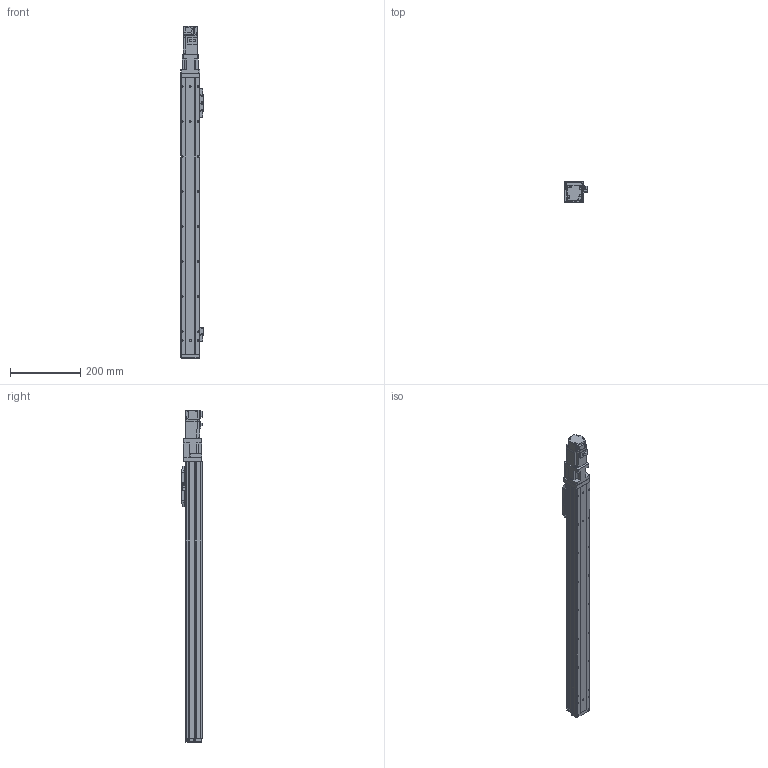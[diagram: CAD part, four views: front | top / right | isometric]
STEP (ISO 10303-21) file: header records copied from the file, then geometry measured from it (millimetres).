
FILE_DESCRIPTION (( 'STEP AP214' ), '1' );
FILE_NAME ('N_GRH5-650-BC-M10.step', '2025-03-14T09:34:16', ( '' ), ( '' ), 'SwSTEP 2.0', 'SolidWorks 2016', '' );
FILE_SCHEMA (( 'AUTOMOTIVE_DESIGN' ));
Length unit declared in the file: millimetre
Products named in the file (5): N_GRH5-BC-008^N_GRH5-650-BC-M10; N_GRH5-GY-004^N_GRH5-650-BC-M10; N_GRH5-650-BC-M10; N_GRH5-GY-011^N_GRH5-650-BC-M10; HF-KP13_100W_Motor^N_GRH5-650-BC-M10
Assembly tree (4 placements, depth 2):
  N_GRH5-650-BC-M10
    N_GRH5-GY-011^N_GRH5-650-BC-M10
    N_GRH5-GY-004^N_GRH5-650-BC-M10
    N_GRH5-BC-008^N_GRH5-650-BC-M10
    HF-KP13_100W_Motor^N_GRH5-650-BC-M10
Bounding box: 64.05 x 60.7 x 947.9 mm (x, y, z)
Volume: 1504171.1 mm3; surface area: 406473.8 mm2
Topology: 4 solids, 5 shells, 954 faces, 2462 edges, 1567 vertices
Faces by surface type: plane 558, cylinder 336, cone 58, sphere 2
Entity records: 35598 total; most frequent: DIRECTION 5045, CARTESIAN_POINT 5026, ORIENTED_EDGE 4852, EDGE_CURVE 2426, LINE 1693, VECTOR 1693, AXIS2_PLACEMENT_3D 1676, VERTEX_POINT 1565
